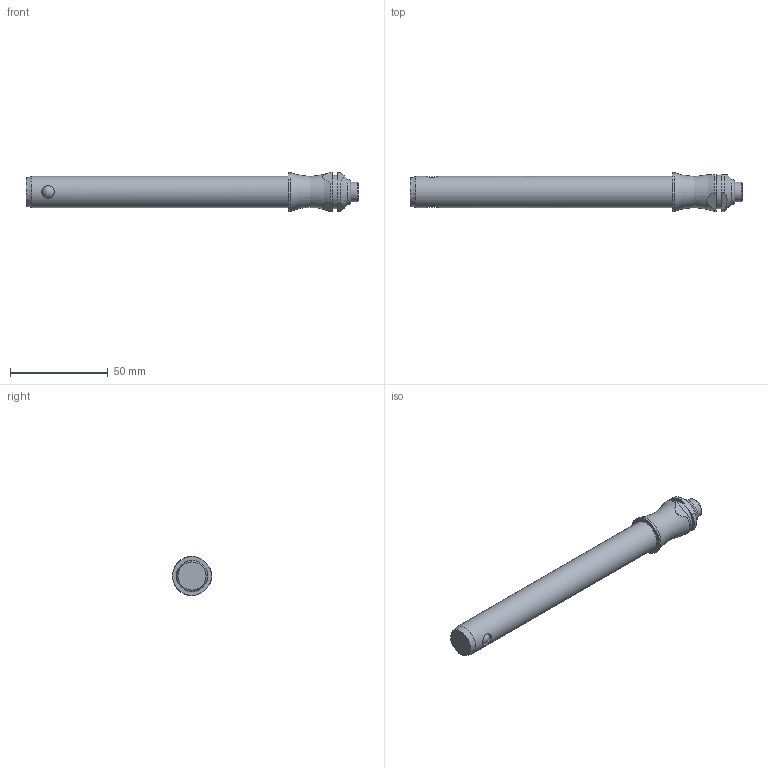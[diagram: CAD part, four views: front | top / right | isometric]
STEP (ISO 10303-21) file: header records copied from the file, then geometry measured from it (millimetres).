
FILE_DESCRIPTION( ( 'STEP AP203' ), '1' );
FILE_NAME( 'C:/Temp/Ganter_Step_05_03_2020/data/3_1/gn113_3/Stainless Steel-Ball lock pin GN 113.3-16-120 (activated).stp', '2020-03-12T08:18:59', ( 'License CC BY-ND 4.0' ), ( 'CADENAS' ), ' ', 'PARTsolutions', ' ' );
FILE_SCHEMA( ( 'CONFIG_CONTROL_DESIGN' ) );
Length unit declared in the file: millimetre
Products named in the file (1): _Stainless Steel-Ball lock pin GN 113.3-16-120 (activated)
Bounding box: 169.75 x 20 x 20 mm (x, y, z)
Volume: 34490.8 mm3; surface area: 9342.3 mm2
Topology: 1 solids, 1 shells, 30 faces, 68 edges, 43 vertices
Faces by surface type: cylinder 12, plane 11, cone 3, torus 2, sphere 2
Full cylindrical faces by diameter (mm): 6.5 x2, 10 x1, 16 x1, 17 x1, 20 x1
Entity records: 1014 total; most frequent: CARTESIAN_POINT 364, DIRECTION 130, ORIENTED_EDGE 102, AXIS2_PLACEMENT_3D 56, EDGE_CURVE 51, EDGE_LOOP 46, VERTEX_POINT 40, FACE_OUTER_BOUND 38
